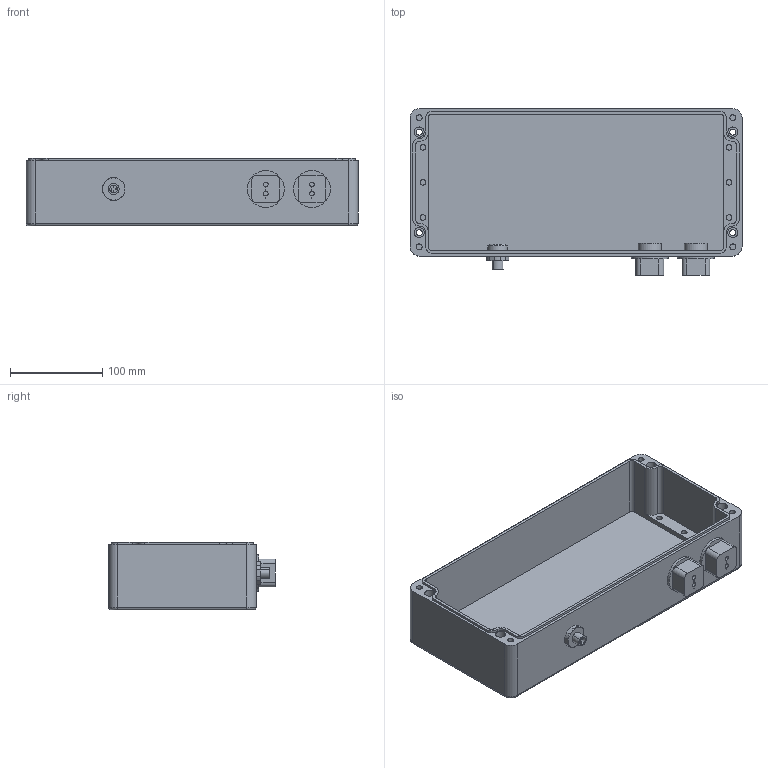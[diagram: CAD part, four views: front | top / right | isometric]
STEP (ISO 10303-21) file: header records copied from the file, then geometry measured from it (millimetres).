
FILE_DESCRIPTION((''),'2;1');
FILE_NAME('CD_NI_9921_BOTTOM_ENCLOSURE','2009-07-15T',('scarrasc'),(''),'PRO/ENGINEER BY PARAMETRIC TECHNOLOGY CORPORATION, 2006300','PRO/ENGINEER BY PARAMETRIC TECHNOLOGY CORPORATION, 2006300','');
FILE_SCHEMA(('CONFIG_CONTROL_DESIGN'));
Length unit declared in the file: inch
Products named in the file (1): CD_NI_9921_BOTTOM_ENCLOSURE
Bounding box: 360 x 181 x 73.5 mm (x, y, z)
Volume: 867298.9 mm3; surface area: 280470.5 mm2
Topology: 1 solids, 1 shells, 233 faces, 573 edges, 377 vertices
Faces by surface type: cylinder 127, plane 86, cone 12, torus 8
Entity records: 7210 total; most frequent: CARTESIAN_POINT 1371, DIRECTION 1306, ORIENTED_EDGE 1146, EDGE_CURVE 573, AXIS2_PLACEMENT_3D 520, VERTEX_POINT 377, CIRCLE 287, EDGE_LOOP 282
